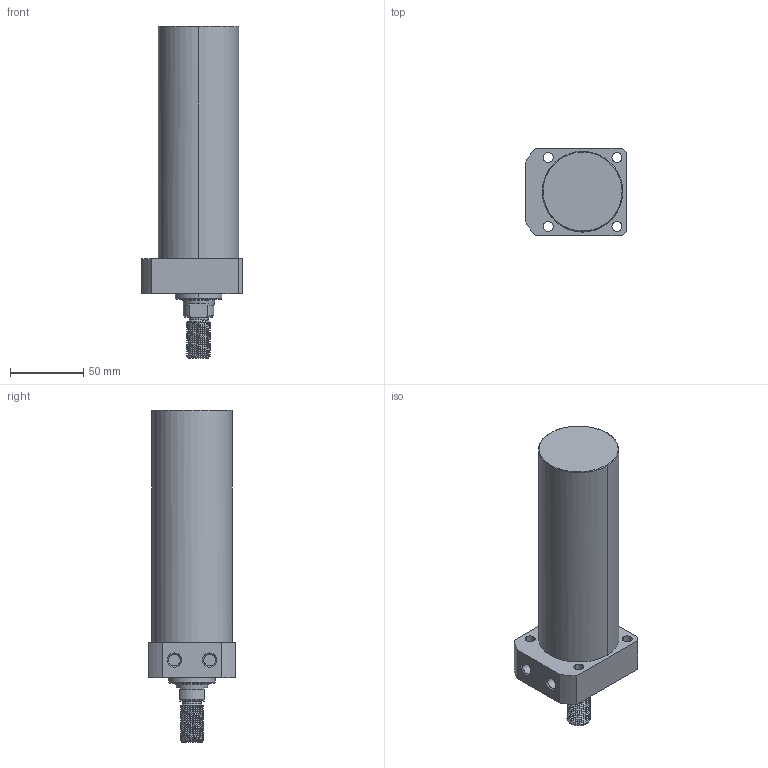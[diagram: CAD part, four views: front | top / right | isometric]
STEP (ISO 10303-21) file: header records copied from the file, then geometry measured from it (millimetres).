
FILE_DESCRIPTION((' '),'2;1');
FILE_NAME( 'TLLR-055CT-130.STEP.stp', '2025-10-24T16:34:49', (' '), ('--- Datakit www.datakit.com---'), ' Datakit CrossCadWare V2024.1 Dec 21 2023', 'Mastercam 2025', ' ');
FILE_SCHEMA(('AUTOMOTIVE_DESIGN { 1 0 10303 214 1 1 1 1 }'));
Length unit declared in the file: millimetre
Products named in the file (1): TLLR-055CT-130
Bounding box: 69 x 60 x 227 mm (x, y, z)
Volume: 482439.7 mm3; surface area: 47330.7 mm2
Topology: 1 solids, 1 shells, 101 faces, 356 edges, 265 vertices
Faces by surface type: cylinder 61, plane 20, cone 16, bspline 2, torus 2
Entity records: 11344 total; most frequent: CARTESIAN_POINT 8264, ORIENTED_EDGE 712, DIRECTION 516, EDGE_CURVE 356, VERTEX_POINT 265, AXIS2_PLACEMENT_3D 209, B_SPLINE_CURVE_WITH_KNOTS 149, EDGE_LOOP 117
